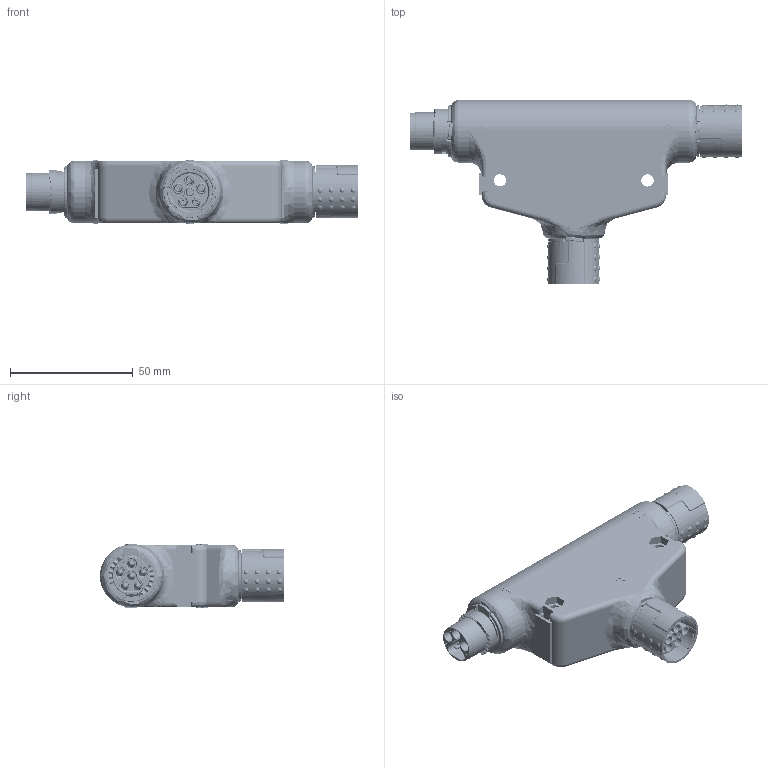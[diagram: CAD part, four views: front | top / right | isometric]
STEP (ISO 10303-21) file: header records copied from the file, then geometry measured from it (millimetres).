
FILE_DESCRIPTION (( 'STEP AP203' ), '1' );
FILE_NAME ('1145373_X-TEC_15K_VERTEILER_PASSIV_STEP.STEP', '2023-10-11T07:42:01', ( '' ), ( '' ), 'SwSTEP 2.0', 'SolidWorks 2021', '' );
FILE_SCHEMA (( 'CONFIG_CONTROL_DESIGN' ));
Products named in the file (1): 1145373_X-TEC_15K_VERTEILER_PASSIV_STEP
Bounding box: 135.02 x 74.92 x 25.9 mm (x, y, z)
Volume: 89535.8 mm3; surface area: 80749 mm2
Topology: 35 solids, 35 shells, 3621 faces, 9245 edges, 5979 vertices
Faces by surface type: plane 1610, cylinder 986, bspline 803, cone 172, torus 46, sphere 4
Full cylindrical faces by diameter (mm): 0.8 x18, 1.6 x30, 1.75 x6, 2 x12, 2.25 x12, 2.5 x27, 2.6 x24, 2.7 x18, 2.8 x6, 3.12 x12, 3.2 x18, 3.3 x18, 3.5 x24, 3.6 x12, 4 x18, 4.2 x6, 4.3 x12, 4.4 x3, 5 x2, 14.6 x3, 15.2 x1, 15.4 x10, 15.595 x2, 16.6 x6, 16.8 x2, 16.9 x2, 17 x5, 17.58 x3, 18 x3, 18.304 x2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
Entity records: 176808 total; most frequent: CARTESIAN_POINT 100750, ORIENTED_EDGE 16774, DIRECTION 12809, EDGE_CURVE 8387, VERTEX_POINT 5715, EDGE_LOOP 4608, AXIS2_PLACEMENT_3D 4594, FACE_OUTER_BOUND 4021
